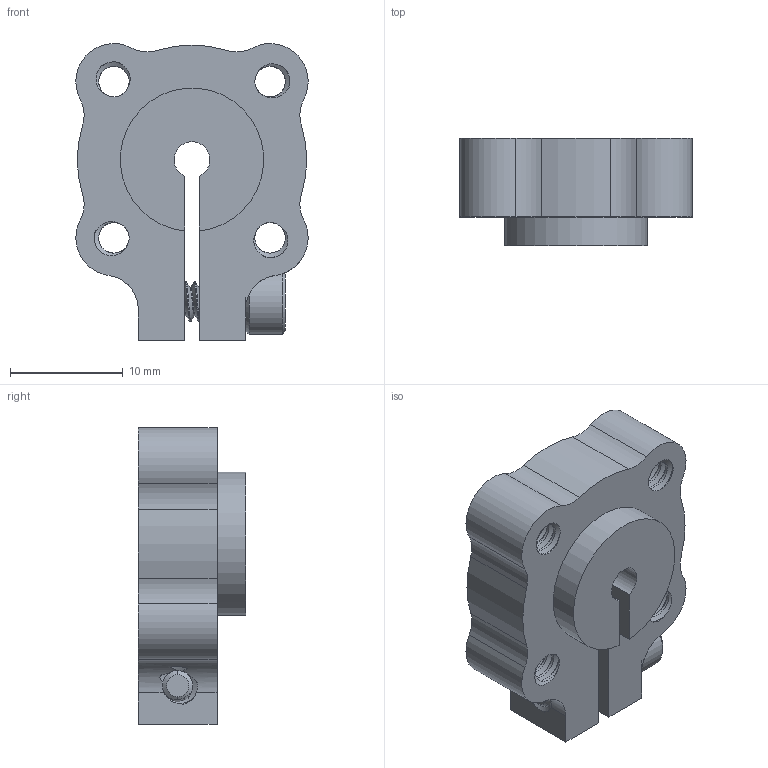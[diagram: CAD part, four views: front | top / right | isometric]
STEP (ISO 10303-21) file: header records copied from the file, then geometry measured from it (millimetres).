
FILE_DESCRIPTION (( 'STEP AP203' ), '1' );
FILE_NAME ('545580 assembly.STEP', '2016-08-18T14:18:09', ( '' ), ( '' ), 'SwSTEP 2.0', 'SolidWorks 2014', '' );
FILE_SCHEMA (( 'CONFIG_CONTROL_DESIGN' ));
Length unit declared in the file: inch
Products named in the file (3): 545580; 545580 assembly; 632110_90128A121
Assembly tree (2 placements, depth 2):
  545580 assembly
    545580
    632110_90128A121
Bounding box: 20.57 x 9.53 x 26.29 mm (x, y, z)
Volume: 3126.7 mm3; surface area: 2605.4 mm2
Topology: 2 solids, 2 shells, 294 faces, 851 edges, 562 vertices
Faces by surface type: cylinder 247, plane 19, bspline 15, cone 13
Entity records: 18950 total; most frequent: CARTESIAN_POINT 12277, ORIENTED_EDGE 1702, DIRECTION 1014, EDGE_CURVE 851, VERTEX_POINT 562, AXIS2_PLACEMENT_3D 370, EDGE_LOOP 307, FACE_OUTER_BOUND 294
